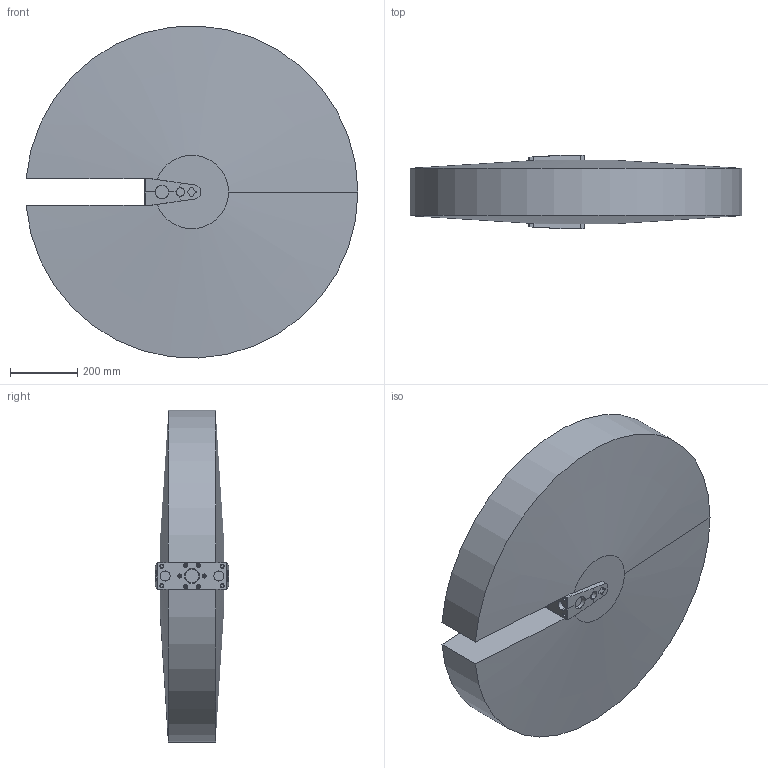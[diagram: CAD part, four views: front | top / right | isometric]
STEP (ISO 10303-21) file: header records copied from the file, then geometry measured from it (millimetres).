
FILE_DESCRIPTION (( 'STEP AP203' ), '1' );
FILE_NAME ('antenna_envelope_assy.STEP', '2026-05-18T19:31:35', ( '' ), ( '' ), 'SwSTEP 2.0', 'SolidWorks 2026', '' );
FILE_SCHEMA (( 'CONFIG_CONTROL_DESIGN' ));
Length unit declared in the file: millimetre
Products named in the file (3): antenna_envelope_assy; Antenna_Envelope; antenna_mount_lband
Assembly tree (2 placements, depth 2):
  antenna_envelope_assy
    Antenna_Envelope
    antenna_mount_lband
Bounding box: 988.39 x 220 x 989.2 mm (x, y, z)
Volume: 120012412.3 mm3; surface area: 2132721.7 mm2
Topology: 2 solids, 2 shells, 168 faces, 463 edges, 292 vertices
Faces by surface type: cylinder 68, plane 47, cone 43, torus 8, bspline 2
Entity records: 6696 total; most frequent: CARTESIAN_POINT 2044, ORIENTED_EDGE 926, DIRECTION 907, EDGE_CURVE 463, AXIS2_PLACEMENT_3D 353, VERTEX_POINT 292, EDGE_LOOP 211, LINE 201
